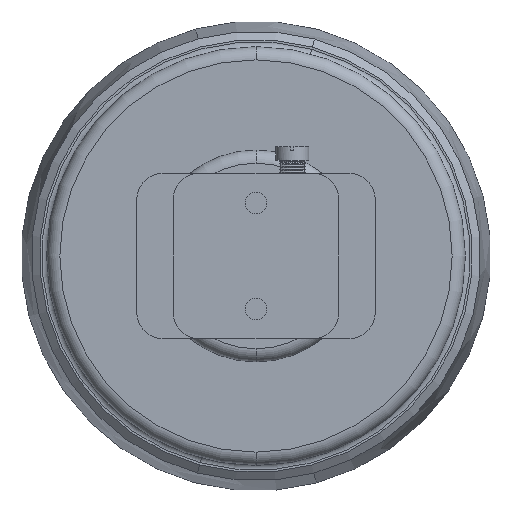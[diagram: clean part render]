
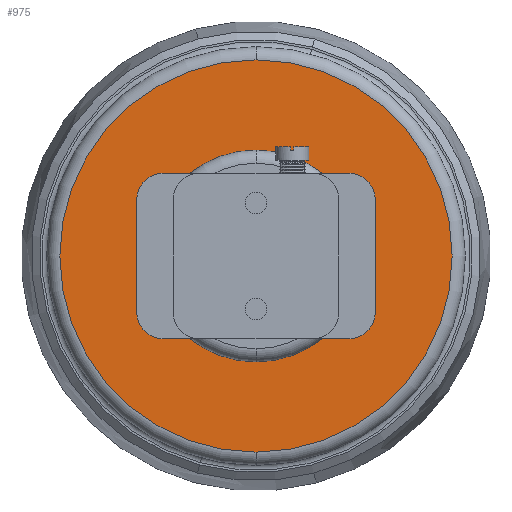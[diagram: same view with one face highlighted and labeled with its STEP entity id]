
A CAD part, front view. The second image highlights one B-rep face of the part: STEP entity #975.
In plain terms, the highlighted planar face has unit normal (0, -1, 0).
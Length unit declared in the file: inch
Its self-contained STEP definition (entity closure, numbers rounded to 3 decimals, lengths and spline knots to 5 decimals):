
#288 = CIRCLE ( 'NONE', #18849, 3.7025 ) ;
#368 = CIRCLE ( 'NONE', #18811, 2. ) ;
#975 = ADVANCED_FACE ( 'NONE', ( #2804, #2812 ), #16586, .F. ) ;
#2804 = FACE_OUTER_BOUND ( 'NONE', #3424, .T. ) ;
#2812 = FACE_BOUND ( 'NONE', #3434, .T. ) ;
#3424 = EDGE_LOOP ( 'NONE', ( #12830, #12956 ) ) ;
#3434 = EDGE_LOOP ( 'NONE', ( #12876, #12916 ) ) ;
#3995 = CARTESIAN_POINT ( 'NONE',  ( 0., 0.35, -2. ) ) ;
#4994 = VERTEX_POINT ( 'NONE', #17991 ) ;
#5013 = VERTEX_POINT ( 'NONE', #18010 ) ;
#5286 = CIRCLE ( 'NONE', #18737, 3.7025 ) ;
#5467 = CIRCLE ( 'NONE', #18633, 2. ) ;
#7334 = CARTESIAN_POINT ( 'NONE',  ( 0., 0.35, 0. ) ) ;
#7335 = DIRECTION ( 'NONE',  ( 0., 1., 0. ) ) ;
#7336 = DIRECTION ( 'NONE',  ( 0., 0., 1. ) ) ;
#8555 = AXIS2_PLACEMENT_3D ( 'NONE', #16585, #16583, #16588 ) ;
#11202 = CARTESIAN_POINT ( 'NONE',  ( 0., 0.35, 0. ) ) ;
#11204 = DIRECTION ( 'NONE',  ( 0., -1., 0. ) ) ;
#11205 = DIRECTION ( 'NONE',  ( 0., 0., 1. ) ) ;
#11589 = CARTESIAN_POINT ( 'NONE',  ( 0., 0.35, 0. ) ) ;
#11591 = DIRECTION ( 'NONE',  ( 0., 1., 0. ) ) ;
#11593 = DIRECTION ( 'NONE',  ( 0., 0., 1. ) ) ;
#12830 = ORIENTED_EDGE ( 'NONE', *, *, #16927, .T. ) ;
#12876 = ORIENTED_EDGE ( 'NONE', *, *, #17522, .T. ) ;
#12916 = ORIENTED_EDGE ( 'NONE', *, *, #17097, .T. ) ;
#12956 = ORIENTED_EDGE ( 'NONE', *, *, #17379, .T. ) ;
#13031 = VERTEX_POINT ( 'NONE', #3995 ) ;
#13620 = CARTESIAN_POINT ( 'NONE',  ( 0., 0.35, 2. ) ) ;
#13765 = CARTESIAN_POINT ( 'NONE',  ( 0., 0.35, 0. ) ) ;
#13766 = DIRECTION ( 'NONE',  ( 0., -1., 0. ) ) ;
#13767 = DIRECTION ( 'NONE',  ( 0., 0., 1. ) ) ;
#16583 = DIRECTION ( 'NONE',  ( 0., 1., 0. ) ) ;
#16585 = CARTESIAN_POINT ( 'NONE',  ( -5., 0.35, 0. ) ) ;
#16586 = PLANE ( 'NONE',  #8555 ) ;
#16588 = DIRECTION ( 'NONE',  ( 0., 0., 1. ) ) ;
#16927 = EDGE_CURVE ( 'NONE', #5013, #4994, #288, .T. ) ;
#17097 = EDGE_CURVE ( 'NONE', #13031, #17284, #368, .T. ) ;
#17284 = VERTEX_POINT ( 'NONE', #13620 ) ;
#17379 = EDGE_CURVE ( 'NONE', #4994, #5013, #5286, .T. ) ;
#17522 = EDGE_CURVE ( 'NONE', #17284, #13031, #5467, .T. ) ;
#17991 = CARTESIAN_POINT ( 'NONE',  ( 0., 0.35, -3.7025 ) ) ;
#18010 = CARTESIAN_POINT ( 'NONE',  ( 0., 0.35, 3.7025 ) ) ;
#18633 = AXIS2_PLACEMENT_3D ( 'NONE', #7334, #7335, #7336 ) ;
#18737 = AXIS2_PLACEMENT_3D ( 'NONE', #13765, #13766, #13767 ) ;
#18811 = AXIS2_PLACEMENT_3D ( 'NONE', #11589, #11591, #11593 ) ;
#18849 = AXIS2_PLACEMENT_3D ( 'NONE', #11202, #11204, #11205 ) ;
